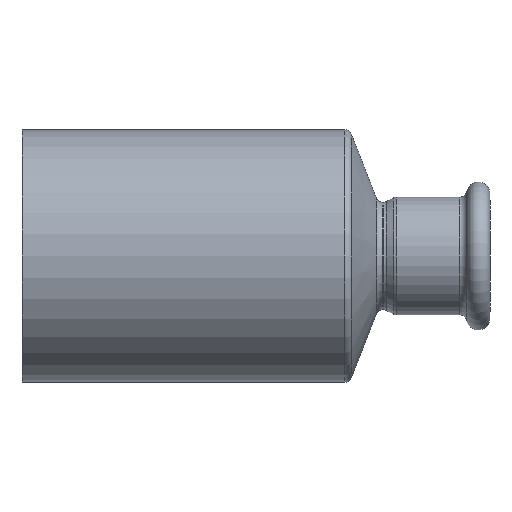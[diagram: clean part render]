
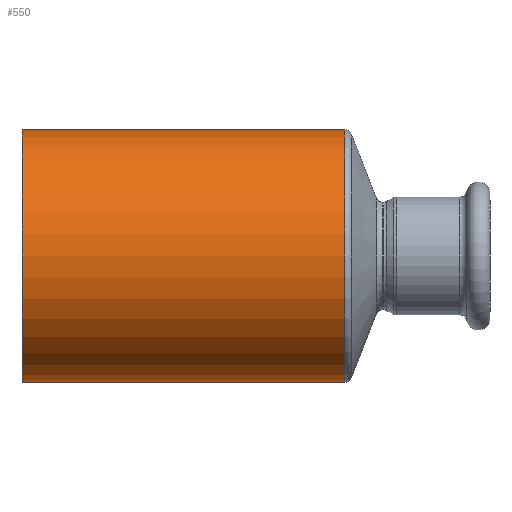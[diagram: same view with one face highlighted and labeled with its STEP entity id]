
A CAD part, front view. The second image highlights one B-rep face of the part: STEP entity #550.
In plain terms, the highlighted cylindrical face has radius 27 mm (diameter 54 mm), a partial arc.
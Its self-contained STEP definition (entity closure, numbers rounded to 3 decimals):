
#6 = AXIS2_PLACEMENT_3D ( 'NONE', #696, #244, #230 ) ;
#37 = ORIENTED_EDGE ( 'NONE', *, *, #828, .T. ) ;
#67 = CARTESIAN_POINT ( 'NONE',  ( -54.488, 0., 27. ) ) ;
#72 = ORIENTED_EDGE ( 'NONE', *, *, #502, .F. ) ;
#80 = ORIENTED_EDGE ( 'NONE', *, *, #693, .T. ) ;
#129 = AXIS2_PLACEMENT_3D ( 'NONE', #922, #1191, #172 ) ;
#132 = CARTESIAN_POINT ( 'NONE',  ( 14.512, 0., 27. ) ) ;
#172 = DIRECTION ( 'NONE',  ( 0., 0., 1. ) ) ;
#181 = CYLINDRICAL_SURFACE ( 'NONE', #129, 27. ) ;
#188 = CIRCLE ( 'NONE', #352, 27. ) ;
#217 = VERTEX_POINT ( 'NONE', #261 ) ;
#230 = DIRECTION ( 'NONE',  ( 0., 0., 1. ) ) ;
#244 = DIRECTION ( 'NONE',  ( -1., 0., 0. ) ) ;
#261 = CARTESIAN_POINT ( 'NONE',  ( -54.488, 0., -27. ) ) ;
#271 = LINE ( 'NONE', #1205, #419 ) ;
#349 = EDGE_CURVE ( 'NONE', #217, #568, #954, .T. ) ;
#352 = AXIS2_PLACEMENT_3D ( 'NONE', #869, #853, #382 ) ;
#382 = DIRECTION ( 'NONE',  ( 0., 0., -1. ) ) ;
#419 = VECTOR ( 'NONE', #649, 1000. ) ;
#432 = ORIENTED_EDGE ( 'NONE', *, *, #349, .F. ) ;
#446 = DIRECTION ( 'NONE',  ( -1., 0., 0. ) ) ;
#454 = FACE_OUTER_BOUND ( 'NONE', #916, .T. ) ;
#502 = EDGE_CURVE ( 'NONE', #838, #217, #271, .T. ) ;
#534 = CARTESIAN_POINT ( 'NONE',  ( -53.513, 0., 27. ) ) ;
#550 = ADVANCED_FACE ( 'NONE', ( #454 ), #181, .T. ) ;
#568 = VERTEX_POINT ( 'NONE', #67 ) ;
#649 = DIRECTION ( 'NONE',  ( -1., 0., 0. ) ) ;
#657 = VECTOR ( 'NONE', #446, 1000. ) ;
#693 = EDGE_CURVE ( 'NONE', #838, #791, #188, .T. ) ;
#696 = CARTESIAN_POINT ( 'NONE',  ( -54.488, 0., 0. ) ) ;
#791 = VERTEX_POINT ( 'NONE', #132 ) ;
#828 = EDGE_CURVE ( 'NONE', #791, #568, #1218, .T. ) ;
#838 = VERTEX_POINT ( 'NONE', #1113 ) ;
#853 = DIRECTION ( 'NONE',  ( -1., 0., 0. ) ) ;
#869 = CARTESIAN_POINT ( 'NONE',  ( 14.512, 0., 0. ) ) ;
#916 = EDGE_LOOP ( 'NONE', ( #72, #80, #37, #432 ) ) ;
#922 = CARTESIAN_POINT ( 'NONE',  ( -53.513, 0., 0. ) ) ;
#954 = CIRCLE ( 'NONE', #6, 27. ) ;
#1113 = CARTESIAN_POINT ( 'NONE',  ( 14.512, 0., -27. ) ) ;
#1191 = DIRECTION ( 'NONE',  ( -1., 0., 0. ) ) ;
#1205 = CARTESIAN_POINT ( 'NONE',  ( -53.513, 0., -27. ) ) ;
#1218 = LINE ( 'NONE', #534, #657 ) ;
